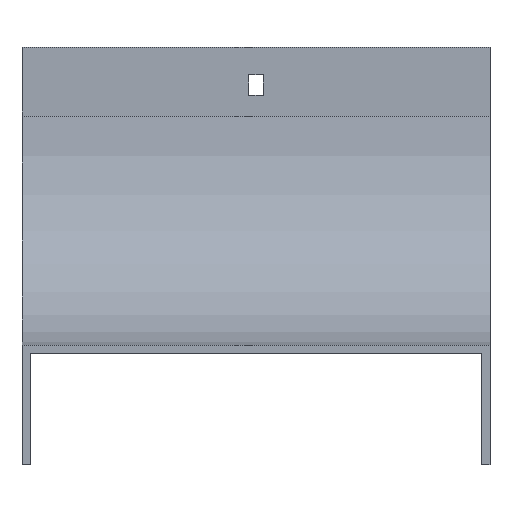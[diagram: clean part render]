
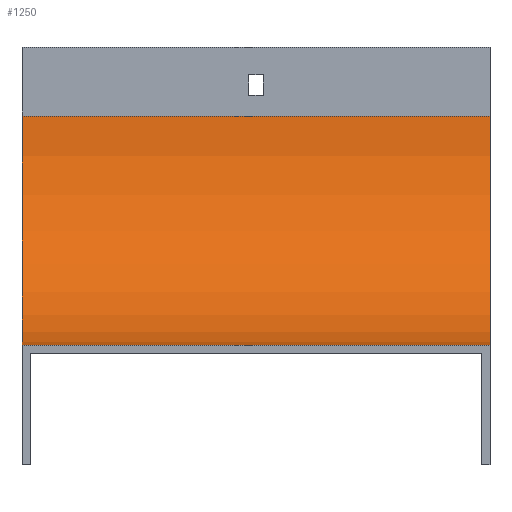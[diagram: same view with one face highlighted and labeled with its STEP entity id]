
A CAD part, front view. The second image highlights one B-rep face of the part: STEP entity #1250.
In plain terms, the highlighted cylindrical face has radius 100 mm (diameter 200 mm), a partial arc.
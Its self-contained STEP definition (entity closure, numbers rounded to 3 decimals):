
#9 = EDGE_CURVE ( 'NONE', #220, #985, #367, .T. ) ;
#28 = DIRECTION ( 'NONE',  ( 0., 0., 1. ) ) ;
#97 = EDGE_CURVE ( 'NONE', #220, #299, #1238, .T. ) ;
#121 = CARTESIAN_POINT ( 'NONE',  ( 102., 0., -30. ) ) ;
#173 = VERTEX_POINT ( 'NONE', #234 ) ;
#220 = VERTEX_POINT ( 'NONE', #778 ) ;
#234 = CARTESIAN_POINT ( 'NONE',  ( -102., -100., -130. ) ) ;
#270 = CYLINDRICAL_SURFACE ( 'NONE', #814, 100. ) ;
#272 = ORIENTED_EDGE ( 'NONE', *, *, #365, .F. ) ;
#276 = AXIS2_PLACEMENT_3D ( 'NONE', #1221, #1127, #28 ) ;
#287 = ORIENTED_EDGE ( 'NONE', *, *, #9, .F. ) ;
#299 = VERTEX_POINT ( 'NONE', #428 ) ;
#364 = DIRECTION ( 'NONE',  ( -1., 0., 0. ) ) ;
#365 = EDGE_CURVE ( 'NONE', #985, #173, #905, .T. ) ;
#367 = CIRCLE ( 'NONE', #276, 100. ) ;
#428 = CARTESIAN_POINT ( 'NONE',  ( -102., 0., -30. ) ) ;
#456 = CARTESIAN_POINT ( 'NONE',  ( 102., -100., -130. ) ) ;
#506 = EDGE_CURVE ( 'NONE', #299, #173, #1391, .T. ) ;
#686 = CARTESIAN_POINT ( 'NONE',  ( 102., -100., -30. ) ) ;
#706 = DIRECTION ( 'NONE',  ( -1., 0., 0. ) ) ;
#707 = DIRECTION ( 'NONE',  ( -1., 0., 0. ) ) ;
#778 = CARTESIAN_POINT ( 'NONE',  ( 102., 0., -30. ) ) ;
#798 = VECTOR ( 'NONE', #993, 1000. ) ;
#814 = AXIS2_PLACEMENT_3D ( 'NONE', #686, #706, #1059 ) ;
#905 = LINE ( 'NONE', #456, #939 ) ;
#927 = EDGE_LOOP ( 'NONE', ( #1037, #272, #287, #1199 ) ) ;
#932 = FACE_OUTER_BOUND ( 'NONE', #927, .T. ) ;
#933 = DIRECTION ( 'NONE',  ( 0., 0., 1. ) ) ;
#939 = VECTOR ( 'NONE', #364, 1000. ) ;
#963 = AXIS2_PLACEMENT_3D ( 'NONE', #1042, #707, #933 ) ;
#985 = VERTEX_POINT ( 'NONE', #1099 ) ;
#993 = DIRECTION ( 'NONE',  ( -1., 0., 0. ) ) ;
#1037 = ORIENTED_EDGE ( 'NONE', *, *, #506, .T. ) ;
#1042 = CARTESIAN_POINT ( 'NONE',  ( -102., -100., -30. ) ) ;
#1059 = DIRECTION ( 'NONE',  ( 0., 0., 1. ) ) ;
#1099 = CARTESIAN_POINT ( 'NONE',  ( 102., -100., -130. ) ) ;
#1127 = DIRECTION ( 'NONE',  ( -1., 0., 0. ) ) ;
#1199 = ORIENTED_EDGE ( 'NONE', *, *, #97, .T. ) ;
#1221 = CARTESIAN_POINT ( 'NONE',  ( 102., -100., -30. ) ) ;
#1238 = LINE ( 'NONE', #121, #798 ) ;
#1250 = ADVANCED_FACE ( 'NONE', ( #932 ), #270, .F. ) ;
#1391 = CIRCLE ( 'NONE', #963, 100. ) ;
